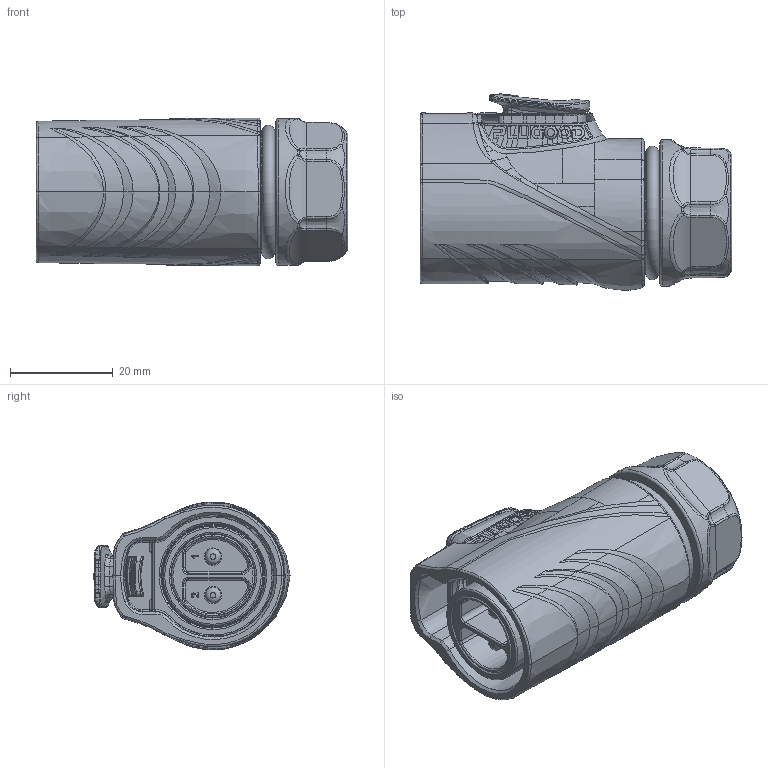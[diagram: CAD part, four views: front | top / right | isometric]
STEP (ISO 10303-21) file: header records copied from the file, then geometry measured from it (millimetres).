
FILE_DESCRIPTION (( 'STEP AP214' ), '1' );
FILE_NAME ('PLG20 2郋坶蹟佪脣芛.STEP', '2025-03-20T05:41:16', ( '' ), ( '' ), 'SwSTEP 2.0', 'SolidWorks 2024', '' );
FILE_SCHEMA (( 'AUTOMOTIVE_DESIGN' ));
Length unit declared in the file: millimetre
Products named in the file (1): PLG20 2芯锁螺丝插头
Bounding box: 60.7 x 38.21 x 28.77 mm (x, y, z)
Volume: 34964.8 mm3; surface area: 18186 mm2
Topology: 2 solids, 8 shells, 1164 faces, 3097 edges, 1967 vertices
Faces by surface type: bspline 670, plane 295, cylinder 109, torus 49, cone 39, sphere 2
Full cylindrical faces by diameter (mm): 1.2 x1, 1.6 x1, 2.5 x1, 2.65 x1, 3.1 x2, 3.4 x2, 16.2 x1, 16.8 x1, 17.6 x1, 18.098 x1, 18.5 x2, 18.6 x2, 19 x1, 19.4 x2, 20 x1, 20.3 x1, 22.033 x2, 28.6 x1
Entity records: 86771 total; most frequent: CARTESIAN_POINT 64112, ORIENTED_EDGE 6012, EDGE_CURVE 3006, DIRECTION 2545, VERTEX_POINT 1938, B_SPLINE_CURVE_WITH_KNOTS 1756, EDGE_LOOP 1254, FACE_OUTER_BOUND 1206
